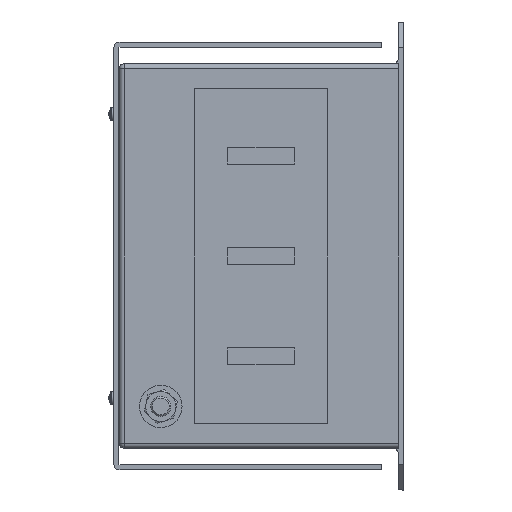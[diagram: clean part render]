
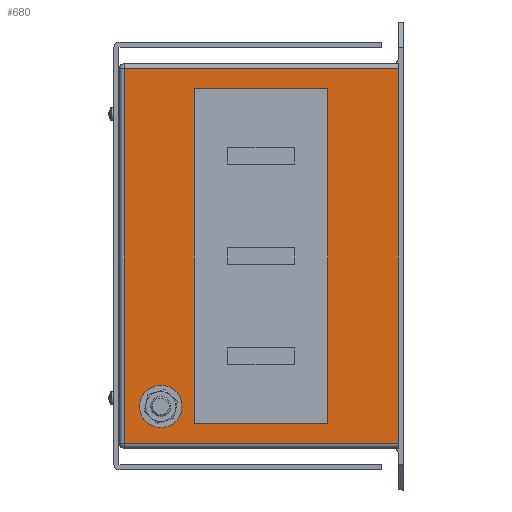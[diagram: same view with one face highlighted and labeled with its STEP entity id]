
A CAD part, left-side view. The second image highlights one B-rep face of the part: STEP entity #680.
In plain terms, the highlighted planar face has unit normal (-1, 0, 0).
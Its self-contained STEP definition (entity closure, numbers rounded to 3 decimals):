
#596 = EDGE_LOOP ( 'NONE', ( #597, #599 ) ) ;
#597 = ORIENTED_EDGE ( 'NONE', *, *, #598, .T. ) ;
#598 = EDGE_CURVE ( 'NONE', #11053, #11057, #4707, .T. ) ;
#599 = ORIENTED_EDGE ( 'NONE', *, *, #11054, .T. ) ;
#600 = EDGE_LOOP ( 'NONE', ( #601, #660, #663, #666 ) ) ;
#601 = ORIENTED_EDGE ( 'NONE', *, *, #657, .T. ) ;
#607 = EDGE_CURVE ( 'NONE', #608, #609, #4755, .T. ) ;
#608 = VERTEX_POINT ( 'NONE', #4751 ) ;
#609 = VERTEX_POINT ( 'NONE', #4750 ) ;
#642 = ORIENTED_EDGE ( 'NONE', *, *, #643, .T. ) ;
#643 = EDGE_CURVE ( 'NONE', #672, #608, #4814, .T. ) ;
#644 = ORIENTED_EDGE ( 'NONE', *, *, #607, .T. ) ;
#645 = ORIENTED_EDGE ( 'NONE', *, *, #646, .T. ) ;
#646 = EDGE_CURVE ( 'NONE', #609, #671, #4810, .T. ) ;
#657 = EDGE_CURVE ( 'NONE', #658, #659, #4852, .T. ) ;
#658 = VERTEX_POINT ( 'NONE', #4848 ) ;
#659 = VERTEX_POINT ( 'NONE', #4847 ) ;
#660 = ORIENTED_EDGE ( 'NONE', *, *, #661, .T. ) ;
#661 = EDGE_CURVE ( 'NONE', #659, #662, #4846, .T. ) ;
#662 = VERTEX_POINT ( 'NONE', #4842 ) ;
#663 = ORIENTED_EDGE ( 'NONE', *, *, #664, .T. ) ;
#664 = EDGE_CURVE ( 'NONE', #662, #665, #4841, .T. ) ;
#665 = VERTEX_POINT ( 'NONE', #4837 ) ;
#666 = ORIENTED_EDGE ( 'NONE', *, *, #667, .T. ) ;
#667 = EDGE_CURVE ( 'NONE', #665, #658, #4836, .T. ) ;
#668 = EDGE_LOOP ( 'NONE', ( #669, #642, #644, #645 ) ) ;
#669 = ORIENTED_EDGE ( 'NONE', *, *, #670, .T. ) ;
#670 = EDGE_CURVE ( 'NONE', #671, #672, #4832, .T. ) ;
#671 = VERTEX_POINT ( 'NONE', #4828 ) ;
#672 = VERTEX_POINT ( 'NONE', #4827 ) ;
#680 = ADVANCED_FACE ( 'NONE', ( #4874, #4873, #4872 ), #4871, .F. ) ;
#4703 = DIRECTION ( 'NONE',  ( 0., 0., -1. ) ) ;
#4704 = DIRECTION ( 'NONE',  ( 1., 0., 0. ) ) ;
#4705 = CARTESIAN_POINT ( 'NONE',  ( 0., 142., -205. ) ) ;
#4706 = AXIS2_PLACEMENT_3D ( 'NONE', #4705, #4704, #4703 ) ;
#4707 = CIRCLE ( 'NONE', #4706, 6. ) ;
#4750 = CARTESIAN_POINT ( 'NONE',  ( 0., 0., -3. ) ) ;
#4751 = CARTESIAN_POINT ( 'NONE',  ( 0., 0., -227. ) ) ;
#4752 = DIRECTION ( 'NONE',  ( 0., 0., 1. ) ) ;
#4753 = VECTOR ( 'NONE', #4752, 1000. ) ;
#4754 = CARTESIAN_POINT ( 'NONE',  ( 0., 0., 0. ) ) ;
#4755 = LINE ( 'NONE', #4754, #4753 ) ;
#4807 = DIRECTION ( 'NONE',  ( 0., 1., 0. ) ) ;
#4808 = VECTOR ( 'NONE', #4807, 1000. ) ;
#4809 = CARTESIAN_POINT ( 'NONE',  ( 0., 167., -3. ) ) ;
#4810 = LINE ( 'NONE', #4809, #4808 ) ;
#4811 = DIRECTION ( 'NONE',  ( 0., -1., 0. ) ) ;
#4812 = VECTOR ( 'NONE', #4811, 1000. ) ;
#4813 = CARTESIAN_POINT ( 'NONE',  ( 0., 167., -227. ) ) ;
#4814 = LINE ( 'NONE', #4813, #4812 ) ;
#4827 = CARTESIAN_POINT ( 'NONE',  ( 0., 164., -227. ) ) ;
#4828 = CARTESIAN_POINT ( 'NONE',  ( 0., 164., -3. ) ) ;
#4829 = DIRECTION ( 'NONE',  ( 0., 0., -1. ) ) ;
#4830 = VECTOR ( 'NONE', #4829, 1000. ) ;
#4831 = CARTESIAN_POINT ( 'NONE',  ( 0., 164., 0. ) ) ;
#4832 = LINE ( 'NONE', #4831, #4830 ) ;
#4833 = DIRECTION ( 'NONE',  ( 0., -1., 0. ) ) ;
#4834 = VECTOR ( 'NONE', #4833, 1000. ) ;
#4835 = CARTESIAN_POINT ( 'NONE',  ( 0., 167., -15. ) ) ;
#4836 = LINE ( 'NONE', #4835, #4834 ) ;
#4837 = CARTESIAN_POINT ( 'NONE',  ( 0., 122., -15. ) ) ;
#4838 = DIRECTION ( 'NONE',  ( 0., 0., 1. ) ) ;
#4839 = VECTOR ( 'NONE', #4838, 1000. ) ;
#4840 = CARTESIAN_POINT ( 'NONE',  ( 0., 122., 0. ) ) ;
#4841 = LINE ( 'NONE', #4840, #4839 ) ;
#4842 = CARTESIAN_POINT ( 'NONE',  ( 0., 122., -215. ) ) ;
#4843 = DIRECTION ( 'NONE',  ( 0., 1., 0. ) ) ;
#4844 = VECTOR ( 'NONE', #4843, 1000. ) ;
#4845 = CARTESIAN_POINT ( 'NONE',  ( 0., 167., -215. ) ) ;
#4846 = LINE ( 'NONE', #4845, #4844 ) ;
#4847 = CARTESIAN_POINT ( 'NONE',  ( 0., 42., -215. ) ) ;
#4848 = CARTESIAN_POINT ( 'NONE',  ( 0., 42., -15. ) ) ;
#4849 = DIRECTION ( 'NONE',  ( 0., 0., -1. ) ) ;
#4850 = VECTOR ( 'NONE', #4849, 1000. ) ;
#4851 = CARTESIAN_POINT ( 'NONE',  ( 0., 42., 0. ) ) ;
#4852 = LINE ( 'NONE', #4851, #4850 ) ;
#4867 = DIRECTION ( 'NONE',  ( 0., 0., -1. ) ) ;
#4868 = DIRECTION ( 'NONE',  ( 1., 0., 0. ) ) ;
#4869 = CARTESIAN_POINT ( 'NONE',  ( 0., 167., 0. ) ) ;
#4870 = AXIS2_PLACEMENT_3D ( 'NONE', #4869, #4868, #4867 ) ;
#4871 = PLANE ( 'NONE',  #4870 ) ;
#4872 = FACE_OUTER_BOUND ( 'NONE', #668, .T. ) ;
#4873 = FACE_BOUND ( 'NONE', #600, .T. ) ;
#4874 = FACE_BOUND ( 'NONE', #596, .T. ) ;
#9767 = CARTESIAN_POINT ( 'NONE',  ( 0., 142., -199. ) ) ;
#9768 = DIRECTION ( 'NONE',  ( 0., 0., -1. ) ) ;
#9769 = DIRECTION ( 'NONE',  ( 1., 0., 0. ) ) ;
#9770 = CARTESIAN_POINT ( 'NONE',  ( 0., 142., -205. ) ) ;
#9771 = AXIS2_PLACEMENT_3D ( 'NONE', #9770, #9769, #9768 ) ;
#9772 = CIRCLE ( 'NONE', #9771, 6. ) ;
#9773 = CARTESIAN_POINT ( 'NONE',  ( 0., 142., -211. ) ) ;
#11053 = VERTEX_POINT ( 'NONE', #9773 ) ;
#11054 = EDGE_CURVE ( 'NONE', #11057, #11053, #9772, .T. ) ;
#11057 = VERTEX_POINT ( 'NONE', #9767 ) ;
